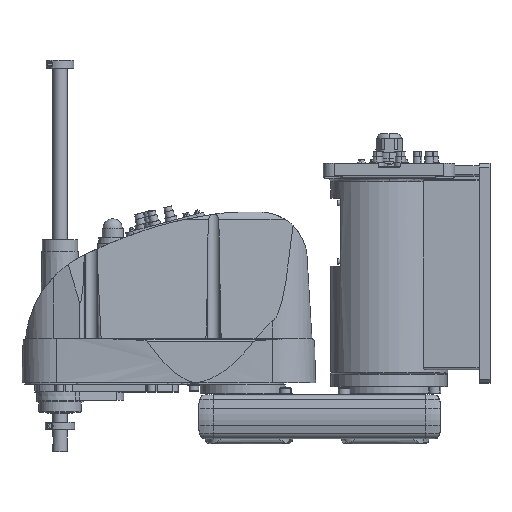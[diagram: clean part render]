
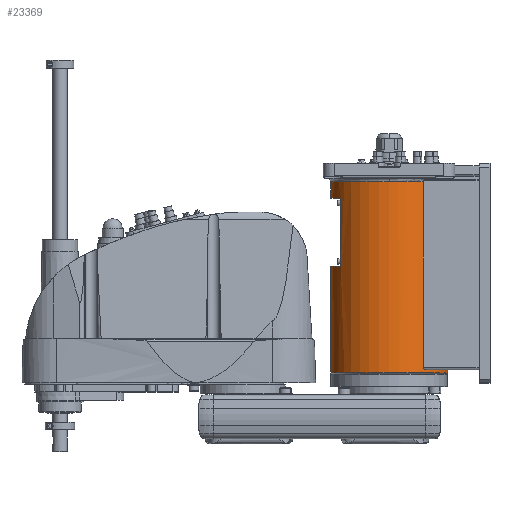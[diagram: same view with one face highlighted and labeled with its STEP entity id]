
A CAD part, top view. The second image highlights one B-rep face of the part: STEP entity #23369.
In plain terms, the highlighted cylindrical face has radius 80 mm (diameter 160 mm), a partial arc.
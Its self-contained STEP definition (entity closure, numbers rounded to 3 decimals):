
#8627 = VERTEX_POINT( '', #25262 );
#10223 = EDGE_CURVE( '', #19645, #23593, #27039, .T. );
#10451 = EDGE_CURVE( '', #23593, #12143, #27292, .T. );
#12143 = VERTEX_POINT( '', #29191 );
#12909 = EDGE_CURVE( '', #12143, #19605, #30042, .T. );
#13327 = EDGE_CURVE( '', #15091, #8627, #30508, .T. );
#14425 = EDGE_CURVE( '', #17551, #21923, #31723, .T. );
#15091 = VERTEX_POINT( '', #32459 );
#17165 = EDGE_CURVE( '', #22929, #17665, #34746, .T. );
#17551 = VERTEX_POINT( '', #35177 );
#17665 = VERTEX_POINT( '', #35302 );
#18173 = VERTEX_POINT( '', #35902 );
#19605 = VERTEX_POINT( '', #37497 );
#19645 = VERTEX_POINT( '', #37543 );
#20425 = EDGE_CURVE( '', #17665, #17551, #38421, .T. );
#20883 = EDGE_CURVE( '', #19605, #18173, #38934, .T. );
#21923 = VERTEX_POINT( '', #40080 );
#22555 = EDGE_CURVE( '', #24615, #15091, #40780, .T. );
#22929 = VERTEX_POINT( '', #41195 );
#23065 = EDGE_CURVE( '', #21923, #19645, #41343, .T. );
#23369 = ADVANCED_FACE( '', ( #41706 ), #41707, .T. );
#23397 = EDGE_CURVE( '', #18173, #8627, #41738, .T. );
#23593 = VERTEX_POINT( '', #41954 );
#23691 = EDGE_CURVE( '', #24615, #22929, #42069, .T. );
#24615 = VERTEX_POINT( '', #43098 );
#25262 = CARTESIAN_POINT( '', ( 46.637, 291.5, 65. ) );
#27039 = CIRCLE( '', #46783, 80. );
#27292 = LINE( '', #47154, #47155 );
#29191 = CARTESIAN_POINT( '', ( 80., 34.5, 0. ) );
#30042 = CIRCLE( '', #51471, 80. );
#30508 = CIRCLE( '', #52182, 80. );
#31723 = CIRCLE( '', #54160, 80. );
#32459 = CARTESIAN_POINT( '', ( 0., 291.5, 80. ) );
#34746 = CIRCLE( '', #58916, 80. );
#35177 = CARTESIAN_POINT( '', ( -66., 176., 45.211 ) );
#35302 = CARTESIAN_POINT( '', ( -66., 269., 45.211 ) );
#35902 = CARTESIAN_POINT( '', ( 46.637, 37.5, 65. ) );
#37497 = CARTESIAN_POINT( '', ( 50.557, 34.5, 62. ) );
#37543 = CARTESIAN_POINT( '', ( -80., 30., 0. ) );
#38421 = LINE( '', #64392, #64393 );
#38934 = B_SPLINE_CURVE_WITH_KNOTS( '', 3, ( #65201, #65202, #65203, #65204, #65205, #65206, #65207, #65208, #65209, #65210, #65211, #65212, #65213, #65214, #65215, #65216 ), .UNSPECIFIED., .F., .F., ( 4, 2, 2, 2, 2, 2, 2, 4 ), ( -6.06, -5.11, -4.16, -2.26, -1.695, -1.13, -0.565, 0. ), .UNSPECIFIED. );
#40080 = CARTESIAN_POINT( '', ( -80., 176., 0. ) );
#40780 = CIRCLE( '', #67994, 80. );
#41195 = CARTESIAN_POINT( '', ( -80., 269., 0. ) );
#41343 = LINE( '', #68896, #68897 );
#41706 = FACE_OUTER_BOUND( '', #69477, .T. );
#41707 = CYLINDRICAL_SURFACE( '', #69478, 80. );
#41738 = LINE( '', #69521, #69522 );
#41954 = CARTESIAN_POINT( '', ( 80., 30., 0. ) );
#42069 = LINE( '', #70029, #70030 );
#43098 = CARTESIAN_POINT( '', ( -80., 291.5, 0. ) );
#46783 = AXIS2_PLACEMENT_3D( '', #74389, #74390, #74391 );
#47154 = CARTESIAN_POINT( '', ( 80., 160.75, 0. ) );
#47155 = VECTOR( '', #74685, 1. );
#51471 = AXIS2_PLACEMENT_3D( '', #77899, #77900, #77901 );
#52182 = AXIS2_PLACEMENT_3D( '', #78424, #78425, #78426 );
#54160 = AXIS2_PLACEMENT_3D( '', #79793, #79794, #79795 );
#58916 = AXIS2_PLACEMENT_3D( '', #83128, #83129, #83130 );
#64392 = CARTESIAN_POINT( '', ( -66., 222.5, 45.211 ) );
#64393 = VECTOR( '', #87501, 1. );
#65201 = CARTESIAN_POINT( '', ( 50.557, 34.5, 62. ) );
#65202 = CARTESIAN_POINT( '', ( 50.312, 34.5, 62.2 ) );
#65203 = CARTESIAN_POINT( '', ( 50.054, 34.52, 62.407 ) );
#65204 = CARTESIAN_POINT( '', ( 49.533, 34.607, 62.822 ) );
#65205 = CARTESIAN_POINT( '', ( 49.269, 34.674, 63.029 ) );
#65206 = CARTESIAN_POINT( '', ( 48.491, 34.945, 63.632 ) );
#65207 = CARTESIAN_POINT( '', ( 47.991, 35.221, 64.009 ) );
#65208 = CARTESIAN_POINT( '', ( 47.455, 35.701, 64.405 ) );
#65209 = CARTESIAN_POINT( '', ( 47.333, 35.827, 64.495 ) );
#65210 = CARTESIAN_POINT( '', ( 47.106, 36.105, 64.661 ) );
#65211 = CARTESIAN_POINT( '', ( 47.002, 36.258, 64.736 ) );
#65212 = CARTESIAN_POINT( '', ( 46.828, 36.585, 64.863 ) );
#65213 = CARTESIAN_POINT( '', ( 46.758, 36.761, 64.913 ) );
#65214 = CARTESIAN_POINT( '', ( 46.662, 37.124, 64.982 ) );
#65215 = CARTESIAN_POINT( '', ( 46.637, 37.312, 65. ) );
#65216 = CARTESIAN_POINT( '', ( 46.637, 37.5, 65. ) );
#67994 = AXIS2_PLACEMENT_3D( '', #90156, #90157, #90158 );
#68896 = CARTESIAN_POINT( '', ( -80., 160.75, 0. ) );
#68897 = VECTOR( '', #90766, 1. );
#69477 = EDGE_LOOP( '', ( #91303, #91304, #91305, #91306, #91307, #91308, #91309, #91310, #91311, #91312, #91313, #91314 ) );
#69478 = AXIS2_PLACEMENT_3D( '', #91315, #91316, #91317 );
#69521 = CARTESIAN_POINT( '', ( 46.637, 164.5, 65. ) );
#69522 = VECTOR( '', #91348, 1. );
#70029 = CARTESIAN_POINT( '', ( -80., 160.75, 0. ) );
#70030 = VECTOR( '', #91738, 1. );
#74389 = CARTESIAN_POINT( '', ( 0., 30., 0. ) );
#74390 = DIRECTION( '', ( 0., 1., 0. ) );
#74391 = DIRECTION( '', ( 1., 0., 0. ) );
#74685 = DIRECTION( '', ( 0., 1., 0. ) );
#77899 = CARTESIAN_POINT( '', ( 0., 34.5, 0. ) );
#77900 = DIRECTION( '', ( 0., -1., 0. ) );
#77901 = DIRECTION( '', ( 1., 0., 0. ) );
#78424 = CARTESIAN_POINT( '', ( 0., 291.5, 0. ) );
#78425 = DIRECTION( '', ( 0., 1., 0. ) );
#78426 = DIRECTION( '', ( 1., 0., 0. ) );
#79793 = CARTESIAN_POINT( '', ( 0., 176., 0. ) );
#79794 = DIRECTION( '', ( 0., -1., 0. ) );
#79795 = DIRECTION( '', ( 1., 0., 0. ) );
#83128 = CARTESIAN_POINT( '', ( 0., 269., 0. ) );
#83129 = DIRECTION( '', ( 0., 1., 0. ) );
#83130 = DIRECTION( '', ( 1., 0., 0. ) );
#87501 = DIRECTION( '', ( 0., -1., 0. ) );
#90156 = CARTESIAN_POINT( '', ( 0., 291.5, 0. ) );
#90157 = DIRECTION( '', ( 0., 1., 0. ) );
#90158 = DIRECTION( '', ( 1., 0., 0. ) );
#90766 = DIRECTION( '', ( 0., -1., 0. ) );
#91303 = ORIENTED_EDGE( '', *, *, #10451, .T. );
#91304 = ORIENTED_EDGE( '', *, *, #12909, .T. );
#91305 = ORIENTED_EDGE( '', *, *, #20883, .T. );
#91306 = ORIENTED_EDGE( '', *, *, #23397, .T. );
#91307 = ORIENTED_EDGE( '', *, *, #13327, .F. );
#91308 = ORIENTED_EDGE( '', *, *, #22555, .F. );
#91309 = ORIENTED_EDGE( '', *, *, #23691, .T. );
#91310 = ORIENTED_EDGE( '', *, *, #17165, .T. );
#91311 = ORIENTED_EDGE( '', *, *, #20425, .T. );
#91312 = ORIENTED_EDGE( '', *, *, #14425, .T. );
#91313 = ORIENTED_EDGE( '', *, *, #23065, .T. );
#91314 = ORIENTED_EDGE( '', *, *, #10223, .T. );
#91315 = CARTESIAN_POINT( '', ( 0., 160.75, 0. ) );
#91316 = DIRECTION( '', ( 0., -1., 0. ) );
#91317 = DIRECTION( '', ( 1., 0., 0. ) );
#91348 = DIRECTION( '', ( 0., 1., 0. ) );
#91738 = DIRECTION( '', ( 0., -1., 0. ) );
